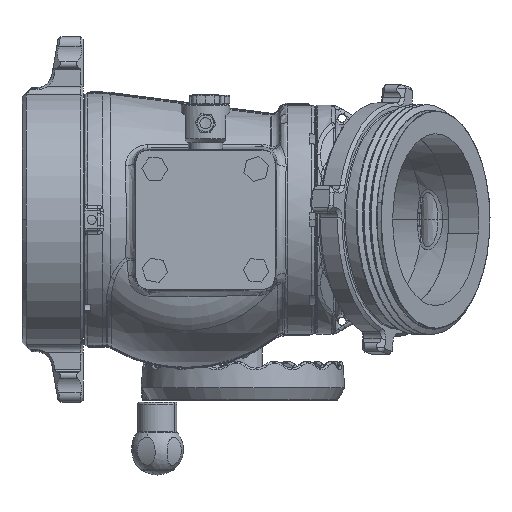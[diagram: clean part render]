
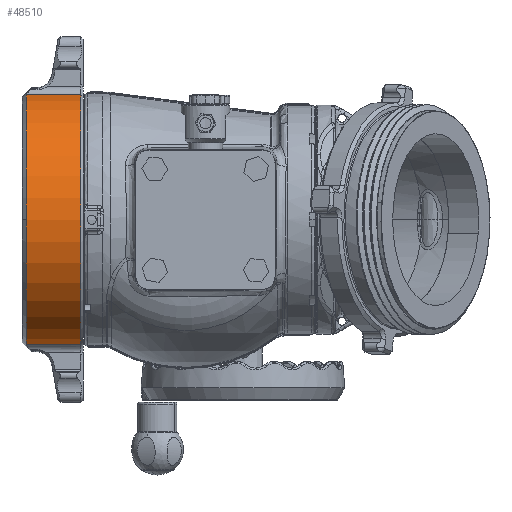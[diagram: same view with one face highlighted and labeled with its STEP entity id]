
A CAD part, front view. The second image highlights one B-rep face of the part: STEP entity #48510.
In plain terms, the highlighted cylindrical face has radius 98.425 mm (diameter 196.85 mm), a partial arc.
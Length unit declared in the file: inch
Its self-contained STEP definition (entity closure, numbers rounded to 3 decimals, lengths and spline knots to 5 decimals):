
#5199 = FACE_OUTER_BOUND ( 'NONE', #56026, .T. ) ;
#5205 = CYLINDRICAL_SURFACE ( 'NONE', #7124, 3.875 ) ;
#7124 = AXIS2_PLACEMENT_3D ( 'NONE', #14811, #14809, #14804 ) ;
#8733 = AXIS2_PLACEMENT_3D ( 'NONE', #80931, #80933, #80935 ) ;
#8737 = AXIS2_PLACEMENT_3D ( 'NONE', #80942, #80944, #80946 ) ;
#14804 = DIRECTION ( 'NONE',  ( 0., 0., -1. ) ) ;
#14809 = DIRECTION ( 'NONE',  ( 1., 0., 0. ) ) ;
#14811 = CARTESIAN_POINT ( 'NONE',  ( -6.01215, -0.44219, 0. ) ) ;
#20955 = AXIS2_PLACEMENT_3D ( 'NONE', #36919, #36921, #36922 ) ;
#29430 = CIRCLE ( 'NONE', #20955, 3.875 ) ;
#36919 = CARTESIAN_POINT ( 'NONE',  ( -5.88715, -0.44219, 0. ) ) ;
#36921 = DIRECTION ( 'NONE',  ( -1., 0., 0. ) ) ;
#36922 = DIRECTION ( 'NONE',  ( 0., 1., 0. ) ) ;
#48510 = ADVANCED_FACE ( 'NONE', ( #5199 ), #5205, .T. ) ;
#53820 = EDGE_CURVE ( 'NONE', #130358, #130341, #72521, .T. ) ;
#53823 = EDGE_CURVE ( 'NONE', #130341, #130343, #72515, .T. ) ;
#53824 = EDGE_CURVE ( 'NONE', #109417, #130343, #72524, .T. ) ;
#53826 = EDGE_CURVE ( 'NONE', #130358, #109420, #72530, .T. ) ;
#56026 = EDGE_LOOP ( 'NONE', ( #97206, #97215, #97223, #97231, #97239 ) ) ;
#72515 = CIRCLE ( 'NONE', #8733, 3.875 ) ;
#72521 = LINE ( 'NONE', #80864, #72527 ) ;
#72524 = LINE ( 'NONE', #80882, #72535 ) ;
#72527 = VECTOR ( 'NONE', #80868, 39.37008 ) ;
#72530 = CIRCLE ( 'NONE', #8737, 3.875 ) ;
#72535 = VECTOR ( 'NONE', #80891, 39.37008 ) ;
#80864 = CARTESIAN_POINT ( 'NONE',  ( -6.01215, -1.13098, -3.81329 ) ) ;
#80868 = DIRECTION ( 'NONE',  ( 1., 0., 0. ) ) ;
#80882 = CARTESIAN_POINT ( 'NONE',  ( -6.01215, -1.13098, 3.81329 ) ) ;
#80891 = DIRECTION ( 'NONE',  ( 1., 0., 0. ) ) ;
#80931 = CARTESIAN_POINT ( 'NONE',  ( -4.21165, -0.44219, 0. ) ) ;
#80933 = DIRECTION ( 'NONE',  ( -1., 0., 0. ) ) ;
#80935 = DIRECTION ( 'NONE',  ( 0., 0., -1. ) ) ;
#80942 = CARTESIAN_POINT ( 'NONE',  ( -5.88715, -0.44219, 0. ) ) ;
#80944 = DIRECTION ( 'NONE',  ( -1., 0., 0. ) ) ;
#80946 = DIRECTION ( 'NONE',  ( 0., 1., 0. ) ) ;
#97206 = ORIENTED_EDGE ( 'NONE', *, *, #53820, .T. ) ;
#97215 = ORIENTED_EDGE ( 'NONE', *, *, #53823, .T. ) ;
#97223 = ORIENTED_EDGE ( 'NONE', *, *, #53824, .F. ) ;
#97231 = ORIENTED_EDGE ( 'NONE', *, *, #132391, .F. ) ;
#97239 = ORIENTED_EDGE ( 'NONE', *, *, #53826, .F. ) ;
#109417 = VERTEX_POINT ( 'NONE', #122072 ) ;
#109420 = VERTEX_POINT ( 'NONE', #122073 ) ;
#122072 = CARTESIAN_POINT ( 'NONE',  ( -5.88715, -1.13098, 3.81329 ) ) ;
#122073 = CARTESIAN_POINT ( 'NONE',  ( -5.88715, -4.31719, 0. ) ) ;
#125357 = CARTESIAN_POINT ( 'NONE',  ( -4.21165, -1.13098, -3.81329 ) ) ;
#125359 = CARTESIAN_POINT ( 'NONE',  ( -4.21165, -1.13098, 3.81329 ) ) ;
#125374 = CARTESIAN_POINT ( 'NONE',  ( -5.88715, -1.13098, -3.81329 ) ) ;
#130341 = VERTEX_POINT ( 'NONE', #125357 ) ;
#130343 = VERTEX_POINT ( 'NONE', #125359 ) ;
#130358 = VERTEX_POINT ( 'NONE', #125374 ) ;
#132391 = EDGE_CURVE ( 'NONE', #109420, #109417, #29430, .T. ) ;
